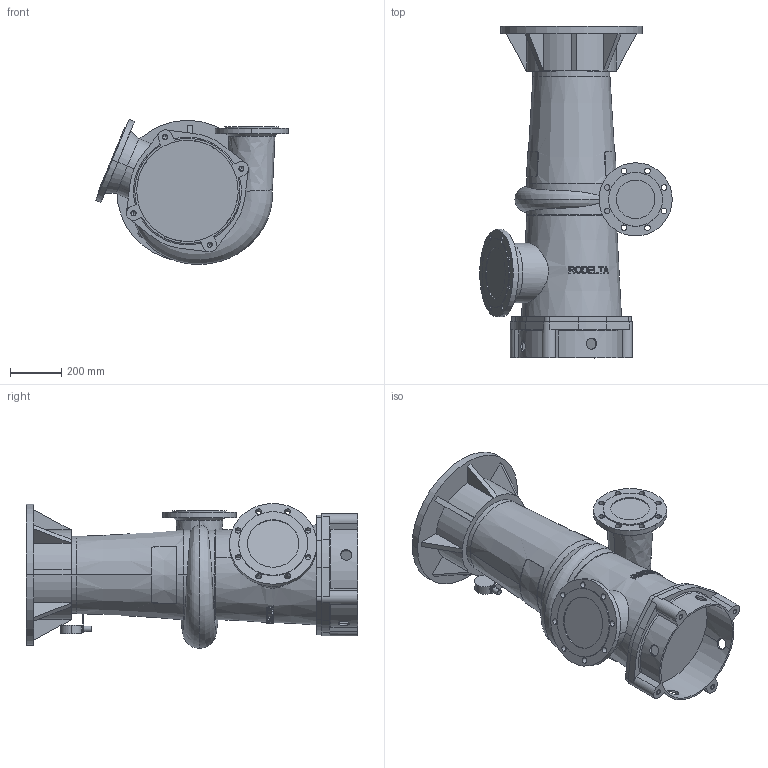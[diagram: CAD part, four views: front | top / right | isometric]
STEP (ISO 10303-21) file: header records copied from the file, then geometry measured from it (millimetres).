
FILE_DESCRIPTION((''),'2;1');
FILE_NAME('7410_VOOR_BLAD_ASM','2024-07-23T',('Lyritlocal'),(''),'PRO/ENGINEER BY PARAMETRIC TECHNOLOGY CORPORATION, 2016360','PRO/ENGINEER BY PARAMETRIC TECHNOLOGY CORPORATION, 2016360','');
FILE_SCHEMA(('CONFIG_CONTROL_DESIGN'));
Length unit declared in the file: millimetre
Products named in the file (3): 7410; 7410_VOET; 7410_VOOR_BLAD_ASM
Assembly tree (2 placements, depth 2):
  7410_VOOR_BLAD_ASM
    7410
    7410_VOET
Bounding box: 749.5 x 1292 x 564.25 mm (x, y, z)
Volume: 142858668 mm3; surface area: 3346063.5 mm2
Topology: 2 solids, 6 shells, 554 faces, 1491 edges, 983 vertices
Faces by surface type: plane 368, cylinder 138, cone 38, bspline 6, torus 4
Entity records: 19705 total; most frequent: CARTESIAN_POINT 6220, ORIENTED_EDGE 2950, DIRECTION 2529, EDGE_CURVE 1483, VERTEX_POINT 983, AXIS2_PLACEMENT_3D 961, EDGE_LOOP 646, VECTOR 607
